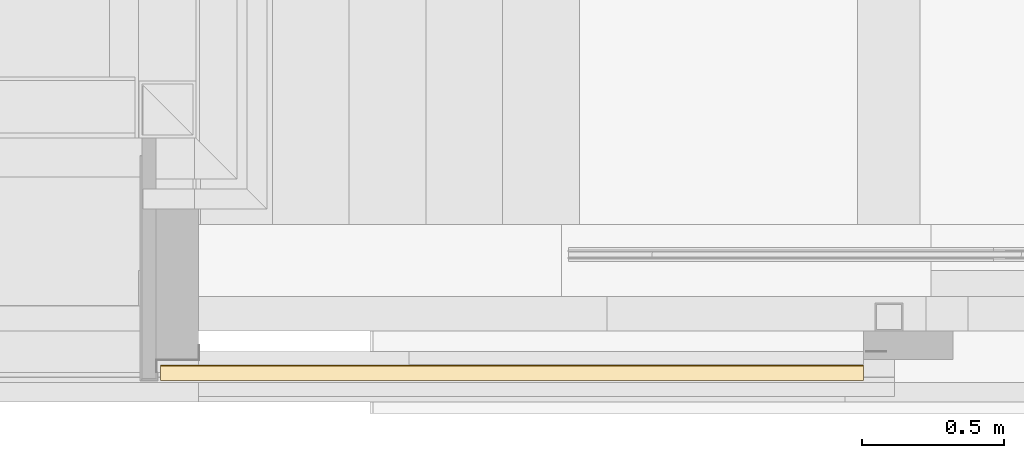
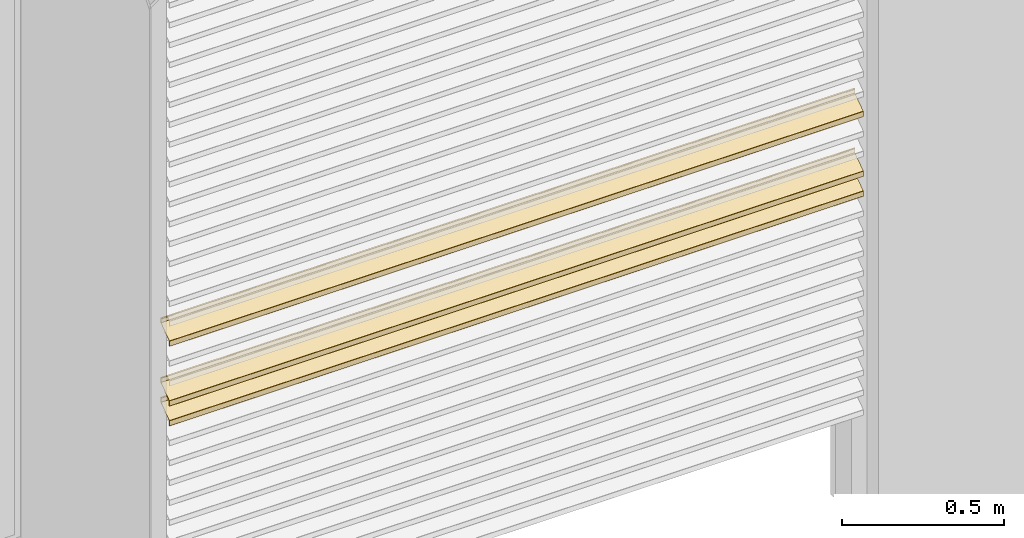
# One storey, part 106 of 165: 3 coverings, 1 element without a shape of its own.
"""IFC2X3 building model written with IfcOpenShell, lengths in millimetres."""

from ifc_helpers import new_model, entity, si_unit, converted_unit, derived_unit, money_unit, direction, frame, origin_with_axes, place, context, subcontext, project, spatial, faceted_brep, material, type_object, element, aggregate, save


model = new_model("IFC2X3")

# Units and contexts
model_context = context("Model", 3, precision=0.01, world=origin_with_axes(), true_north=direction((0.0, 1.0)))
body_context = subcontext(model_context, "Body", "Model", "MODEL_VIEW")
ifc_project = project(units=[si_unit("LENGTHUNIT", "METRE", prefix="MILLI"), si_unit("AREAUNIT", "SQUARE_METRE"), si_unit("VOLUMEUNIT", "CUBIC_METRE"), converted_unit("PLANEANGLEUNIT", "DEGREE", entity("IfcPlaneAngleMeasure", 0.0174532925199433), si_unit("PLANEANGLEUNIT", "RADIAN"), dimensions=[0, 0, 0, 0, 0, 0, 0]), money_unit("EUR"), converted_unit("TIMEUNIT", "Year", entity("IfcTimeMeasure", 31556926.0), si_unit("TIMEUNIT", "SECOND"), dimensions=[0, 0, 1, 0, 0, 0, 0]), si_unit("MASSUNIT", "GRAM", prefix="KILO"), si_unit("THERMODYNAMICTEMPERATUREUNIT", "DEGREE_CELSIUS"), si_unit("LUMINOUSINTENSITYUNIT", "LUMEN"), si_unit("ENERGYUNIT", "JOULE", prefix="MEGA"), derived_unit("THERMALCONDUCTANCEUNIT", [(si_unit("POWERUNIT", "WATT"), 1), (si_unit("LENGTHUNIT", "METRE"), -1), (si_unit("THERMODYNAMICTEMPERATUREUNIT", "KELVIN"), -1)]), derived_unit("SPECIFICHEATCAPACITYUNIT", [(si_unit("ENERGYUNIT", "JOULE"), 1), (si_unit("MASSUNIT", "GRAM", prefix="KILO"), -1), (si_unit("THERMODYNAMICTEMPERATUREUNIT", "KELVIN"), -1)]), derived_unit("MASSDENSITYUNIT", [(si_unit("MASSUNIT", "GRAM", prefix="KILO"), 1), (si_unit("VOLUMEUNIT", "CUBIC_METRE"), -1)])], contexts=[model_context])

# Site, building, storey
site_placement = place(None, origin_with_axes())
site = spatial("IfcSite", under=ifc_project, at=site_placement, Name="Site", CompositionType="ELEMENT")
building_placement = place(site_placement, origin_with_axes())
building = spatial("IfcBuilding", under=site, at=building_placement, Name="Naam gebouw", CompositionType="ELEMENT")
storey_placement = place(building_placement, origin_with_axes())
storey = spatial("IfcBuildingStorey", under=building, at=storey_placement, Name="Begane grond", CompositionType="ELEMENT", Elevation=0.0)

# Beam, coverings
beam_type = type_object("IfcBeamType", Name="30 Duco Louvre deur 55 x 2627", PredefinedType="BEAM")
beam_placement = place(storey_placement, frame((13900.0, -116.9904125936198, 0.0), z_axis=(0.0, 0.0, 1.0), x_axis=(0.0, 1.0, 0.0)))
beam = element("IfcBeam", 1, at=beam_placement, inside=storey, type_object=beam_type, Name="_Regenwaterafvoer-x", ObjectType="BEAM")
ifc_material = material(Name="Metaal - Aluminium")
covering_1_placement = place(beam_placement, origin_with_axes())
covering_1 = element("IfcCovering", 2, at=covering_1_placement, material=ifc_material, Name="Metaal - Aluminium", PredefinedType="NOTDEFINED", context=body_context, shape_type="Brep", body=[
    faceted_brep([(-4.027927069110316, 2473.999999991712, 983.6995018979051), (-56.57357643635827, 2473.999999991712, 946.906642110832), (-56.57357643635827, 0.0, 946.906642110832), (-4.027927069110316, 0.0, 983.6995018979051), (-3.90000000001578, 2473.999999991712, 983.9452475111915), (-3.90000000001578, 2473.999999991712, 999.1264285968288), (-3.975892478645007, 2473.999999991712, 999.3258673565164), (-4.165172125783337, 2473.999999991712, 999.4244001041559), (-4.372072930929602, 2473.999999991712, 999.3721742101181), (-5.427927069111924, 2473.999999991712, 998.6328571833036), (-5.634827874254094, 2473.999999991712, 998.5806312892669), (-5.824107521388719, 2473.999999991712, 998.6791640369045), (-5.900000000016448, 2473.999999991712, 998.8786027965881), (-5.900000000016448, 2473.999999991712, 1000.465609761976), (-5.77207293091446, 2473.999999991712, 1000.711355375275), (-2.944145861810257, 2473.999999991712, 1002.691491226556), (-2.530344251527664, 2473.999999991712, 1002.795943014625), (-2.151784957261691, 2473.999999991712, 1002.598877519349), (-2.000000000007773, 2473.999999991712, 1002.199999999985), (-2.000000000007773, 2473.999999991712, 983.3205670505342), (-2.426423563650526, 2473.999999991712, 982.501415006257), (-26.08018232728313, 2473.999999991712, 965.9388748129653), (-26.40000000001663, 2473.999999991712, 965.3245107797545), (-26.40000000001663, 2473.999999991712, 962.1278174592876), (-26.6196699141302, 2473.999999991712, 961.5974873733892), (-28.05857864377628, 2473.999999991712, 960.1585786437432), (-28.20000000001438, 2473.999999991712, 960.0999999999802), (-28.3414213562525, 2473.999999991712, 960.1585786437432), (-28.40000000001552, 2473.999999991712, 960.2999999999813), (-28.40000000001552, 2473.999999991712, 962.8737843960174), (-28.58973119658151, 2473.999999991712, 963.3723812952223), (-29.0629303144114, 2473.999999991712, 963.6187131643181), (-29.58018232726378, 2473.999999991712, 963.4881484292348), (-30.60000000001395, 2473.999999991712, 962.7740644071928), (-30.60000000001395, 2473.999999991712, 957.5999999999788), (-30.74644660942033, 2473.999999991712, 957.2464466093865), (-31.10000000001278, 2473.999999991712, 957.09999999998), (-32.10000000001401, 2473.999999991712, 957.09999999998), (-32.45355339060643, 2473.999999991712, 957.2464466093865), (-32.60000000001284, 2473.999999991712, 957.5999999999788), (-32.60000000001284, 2473.999999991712, 959.9329127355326), (-32.78973119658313, 2473.999999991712, 960.4315096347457), (-33.26293031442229, 2473.999999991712, 960.6778415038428), (-33.78018232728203, 2473.999999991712, 960.5472767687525), (-54.97207293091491, 2473.999999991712, 945.7085552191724), (-55.10000000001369, 2473.999999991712, 945.4628096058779), (-55.10000000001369, 2473.999999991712, 929.973571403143), (-55.0241075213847, 2473.999999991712, 929.7741326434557), (-54.83482787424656, 2473.999999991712, 929.6755998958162), (-54.62792706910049, 2473.999999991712, 929.7278257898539), (-53.57207293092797, 2473.999999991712, 930.4671428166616), (-53.36517212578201, 2473.999999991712, 930.5193687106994), (-53.17589247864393, 2473.999999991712, 930.4208359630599), (-53.1000000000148, 2473.999999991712, 930.2213972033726), (-53.1000000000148, 2473.999999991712, 928.6343902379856), (-53.22792706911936, 2473.999999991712, 928.3886446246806), (-56.05585413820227, 2473.999999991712, 926.4085087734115), (-56.46965574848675, 2473.999999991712, 926.304056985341), (-56.84821504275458, 2473.999999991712, 926.5011224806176), (-57.00000000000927, 2473.999999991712, 926.8999999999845), (-57.00000000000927, 2473.999999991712, 946.087490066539), (-57.00000000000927, 0.0, 946.087490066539), (-57.00000000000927, 0.0, 926.8999999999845), (-56.84821504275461, 0.0, 926.5011224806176), (-56.46965574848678, 0.0, 926.304056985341), (-56.0558541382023, 0.0, 926.4085087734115), (-53.22792706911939, 0.0, 928.3886446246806), (-53.1000000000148, 0.0, 928.6343902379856), (-53.1000000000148, 0.0, 930.2213972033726), (-53.17589247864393, 0.0, 930.4208359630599), (-53.36517212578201, 0.0, 930.5193687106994), (-53.57207293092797, 0.0, 930.4671428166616), (-54.62792706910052, 0.0, 929.7278257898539), (-54.83482787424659, 0.0, 929.6755998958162), (-55.02410752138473, 0.0, 929.7741326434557), (-55.10000000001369, 0.0, 929.973571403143), (-55.10000000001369, 0.0, 945.4628096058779), (-54.97207293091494, 0.0, 945.7085552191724), (-33.78018232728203, 0.0, 960.5472767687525), (-33.26293031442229, 0.0, 960.6778415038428), (-32.78973119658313, 0.0, 960.4315096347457), (-32.60000000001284, 0.0, 959.9329127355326), (-32.60000000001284, 0.0, 957.5999999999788), (-32.45355339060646, 0.0, 957.2464466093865), (-32.10000000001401, 0.0, 957.09999999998), (-31.10000000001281, 0.0, 957.09999999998), (-30.74644660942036, 0.0, 957.2464466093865), (-30.60000000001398, 0.0, 957.5999999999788), (-30.60000000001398, 0.0, 962.7740644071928), (-29.58018232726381, 0.0, 963.4881484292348), (-29.06293031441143, 0.0, 963.6187131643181), (-28.58973119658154, 0.0, 963.3723812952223), (-28.40000000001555, 0.0, 962.8737843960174), (-28.40000000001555, 0.0, 960.2999999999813), (-28.3414213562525, 0.0, 960.1585786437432), (-28.20000000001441, 0.0, 960.0999999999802), (-28.05857864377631, 0.0, 960.1585786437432), (-26.6196699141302, 0.0, 961.5974873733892), (-26.40000000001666, 0.0, 962.1278174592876), (-26.40000000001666, 0.0, 965.3245107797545), (-26.08018232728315, 0.0, 965.9388748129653), (-2.426423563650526, 0.0, 982.501415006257), (-2.000000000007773, 0.0, 983.3205670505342), (-2.000000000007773, 0.0, 1002.199999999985), (-2.151784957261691, 0.0, 1002.598877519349), (-2.530344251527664, 0.0, 1002.795943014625), (-2.944145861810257, 0.0, 1002.691491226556), (-5.77207293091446, 0.0, 1000.711355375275), (-5.900000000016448, 0.0, 1000.465609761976), (-5.900000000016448, 0.0, 998.8786027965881), (-5.824107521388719, 0.0, 998.6791640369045), (-5.634827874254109, 0.0, 998.5806312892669), (-5.427927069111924, 0.0, 998.6328571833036), (-4.372072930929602, 0.0, 999.3721742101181), (-4.165172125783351, 0.0, 999.4244001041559), (-3.975892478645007, 0.0, 999.3258673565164), (-3.90000000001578, 0.0, 999.1264285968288), (-3.90000000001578, 0.0, 983.9452475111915)], [[[0, 1, 2, 3]], [[0, 4, 5, 6, 7, 8, 9, 10, 11, 12, 13, 14, 15, 16, 17, 18, 19, 20, 21, 22, 23, 24, 25, 26, 27, 28, 29, 30, 31, 32, 33, 34, 35, 36, 37, 38, 39, 40, 41, 42, 43, 44, 45, 46, 47, 48, 49, 50, 51, 52, 53, 54, 55, 56, 57, 58, 59, 60, 1]], [[1, 60, 61, 2]], [[3, 2, 61, 62, 63, 64, 65, 66, 67, 68, 69, 70, 71, 72, 73, 74, 75, 76, 77, 78, 79, 80, 81, 82, 83, 84, 85, 86, 87, 88, 89, 90, 91, 92, 93, 94, 95, 96, 97, 98, 99, 100, 101, 102, 103, 104, 105, 106, 107, 108, 109, 110, 111, 112, 113, 114, 115, 116, 117]], [[4, 0, 3, 117]], [[5, 4, 117, 116]], [[6, 5, 116, 115]], [[7, 6, 115, 114]], [[8, 7, 114, 113]], [[9, 8, 113, 112]], [[10, 9, 112, 111]], [[11, 10, 111, 110]], [[12, 11, 110, 109]], [[13, 12, 109, 108]], [[14, 13, 108, 107]], [[15, 14, 107, 106]], [[16, 15, 106, 105]], [[17, 16, 105, 104]], [[18, 17, 104, 103]], [[19, 18, 103, 102]], [[20, 19, 102, 101]], [[21, 20, 101, 100]], [[22, 21, 100, 99]], [[23, 22, 99, 98]], [[24, 23, 98, 97]], [[25, 24, 97, 96]], [[26, 25, 96, 95]], [[27, 26, 95, 94]], [[28, 27, 94, 93]], [[29, 28, 93, 92]], [[30, 29, 92, 91]], [[31, 30, 91, 90]], [[32, 31, 90, 89]], [[33, 32, 89, 88]], [[34, 33, 88, 87]], [[35, 34, 87, 86]], [[36, 35, 86, 85]], [[37, 36, 85, 84]], [[38, 37, 84, 83]], [[39, 38, 83, 82]], [[40, 39, 82, 81]], [[41, 40, 81, 80]], [[42, 41, 80, 79]], [[43, 42, 79, 78]], [[44, 43, 78, 77]], [[45, 44, 77, 76]], [[46, 45, 76, 75]], [[47, 46, 75, 74]], [[48, 47, 74, 73]], [[49, 48, 73, 72]], [[50, 49, 72, 71]], [[51, 50, 71, 70]], [[52, 51, 70, 69]], [[53, 52, 69, 68]], [[54, 53, 68, 67]], [[55, 54, 67, 66]], [[56, 55, 66, 65]], [[57, 56, 65, 64]], [[58, 57, 64, 63]], [[59, 58, 63, 62]], [[60, 59, 62, 61]]]),
])
covering_2_placement = place(beam_placement, origin_with_axes())
covering_2 = element("IfcCovering", 3, at=covering_2_placement, material=ifc_material, Name="Metaal - Aluminium", PredefinedType="NOTDEFINED", context=body_context, shape_type="Brep", body=[
    faceted_brep([(-4.027927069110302, 2473.999999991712, 1208.699501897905), (-56.57357643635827, 2473.999999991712, 1171.906642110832), (-56.57357643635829, 0.0, 1171.906642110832), (-4.027927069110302, 0.0, 1208.699501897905), (-3.90000000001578, 2473.999999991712, 1208.945247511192), (-3.90000000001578, 2473.999999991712, 1224.126428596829), (-3.975892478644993, 2473.999999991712, 1224.325867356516), (-4.165172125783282, 2473.999999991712, 1224.424400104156), (-4.372072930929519, 2473.999999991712, 1224.372174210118), (-5.427927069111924, 2473.999999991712, 1223.632857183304), (-5.634827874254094, 2473.999999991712, 1223.580631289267), (-5.824107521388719, 2473.999999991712, 1223.679164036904), (-5.900000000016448, 2473.999999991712, 1223.878602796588), (-5.900000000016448, 2473.999999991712, 1225.465609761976), (-5.77207293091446, 2473.999999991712, 1225.711355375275), (-2.944145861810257, 2473.999999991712, 1227.691491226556), (-2.530344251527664, 2473.999999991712, 1227.795943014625), (-2.151784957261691, 2473.999999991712, 1227.59887751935), (-2.000000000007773, 2473.999999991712, 1227.199999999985), (-2.000000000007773, 2473.999999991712, 1208.320567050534), (-2.426423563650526, 2473.999999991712, 1207.501415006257), (-26.08018232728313, 2473.999999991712, 1190.938874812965), (-26.40000000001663, 2473.999999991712, 1190.324510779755), (-26.40000000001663, 2473.999999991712, 1187.127817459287), (-26.61966991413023, 2473.999999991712, 1186.597487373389), (-28.05857864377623, 2473.999999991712, 1185.158578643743), (-28.20000000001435, 2473.999999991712, 1185.09999999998), (-28.34142135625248, 2473.999999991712, 1185.158578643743), (-28.40000000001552, 2473.999999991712, 1185.299999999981), (-28.40000000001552, 2473.999999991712, 1187.873784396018), (-28.58973119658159, 2473.999999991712, 1188.372381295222), (-29.06293031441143, 2473.999999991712, 1188.618713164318), (-29.58018232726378, 2473.999999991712, 1188.488148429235), (-30.60000000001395, 2473.999999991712, 1187.774064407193), (-30.60000000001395, 2473.999999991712, 1182.599999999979), (-30.74644660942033, 2473.999999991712, 1182.246446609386), (-31.10000000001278, 2473.999999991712, 1182.09999999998), (-32.10000000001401, 2473.999999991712, 1182.09999999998), (-32.45355339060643, 2473.999999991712, 1182.246446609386), (-32.60000000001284, 2473.999999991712, 1182.599999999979), (-32.60000000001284, 2473.999999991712, 1184.932912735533), (-32.78973119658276, 2473.999999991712, 1185.431509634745), (-33.26293031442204, 2473.999999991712, 1185.677841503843), (-33.780182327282, 2473.999999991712, 1185.547276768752), (-54.97207293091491, 2473.999999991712, 1170.708555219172), (-55.10000000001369, 2473.999999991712, 1170.462809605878), (-55.10000000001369, 2473.999999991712, 1154.973571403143), (-55.02410752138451, 2473.999999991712, 1154.774132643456), (-54.8348278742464, 2473.999999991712, 1154.675599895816), (-54.62792706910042, 2473.999999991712, 1154.727825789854), (-53.57207293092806, 2473.999999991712, 1155.467142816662), (-53.36517212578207, 2473.999999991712, 1155.519368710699), (-53.17589247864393, 2473.999999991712, 1155.42083596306), (-53.1000000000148, 2473.999999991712, 1155.221397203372), (-53.1000000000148, 2473.999999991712, 1153.634390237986), (-53.22792706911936, 2473.999999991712, 1153.388644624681), (-56.05585413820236, 2473.999999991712, 1151.408508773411), (-56.46965574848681, 2473.999999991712, 1151.304056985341), (-56.84821504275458, 2473.999999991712, 1151.501122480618), (-57.00000000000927, 2473.999999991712, 1151.899999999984), (-57.00000000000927, 2473.999999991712, 1171.087490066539), (-57.00000000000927, 0.0, 1171.087490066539), (-57.00000000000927, 0.0, 1151.899999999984), (-56.84821504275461, 0.0, 1151.501122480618), (-56.46965574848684, 0.0, 1151.304056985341), (-56.05585413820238, 0.0, 1151.408508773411), (-53.22792706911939, 0.0, 1153.388644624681), (-53.1000000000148, 0.0, 1153.634390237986), (-53.1000000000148, 0.0, 1155.221397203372), (-53.17589247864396, 0.0, 1155.42083596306), (-53.36517212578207, 0.0, 1155.519368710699), (-53.57207293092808, 0.0, 1155.467142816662), (-54.62792706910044, 0.0, 1154.727825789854), (-54.83482787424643, 0.0, 1154.675599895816), (-55.02410752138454, 0.0, 1154.774132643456), (-55.10000000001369, 0.0, 1154.973571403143), (-55.10000000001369, 0.0, 1170.462809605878), (-54.97207293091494, 0.0, 1170.708555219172), (-33.78018232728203, 0.0, 1185.547276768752), (-33.26293031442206, 0.0, 1185.677841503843), (-32.78973119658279, 0.0, 1185.431509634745), (-32.60000000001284, 0.0, 1184.932912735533), (-32.60000000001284, 0.0, 1182.599999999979), (-32.45355339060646, 0.0, 1182.246446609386), (-32.10000000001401, 0.0, 1182.09999999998), (-31.10000000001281, 0.0, 1182.09999999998), (-30.74644660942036, 0.0, 1182.246446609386), (-30.60000000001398, 0.0, 1182.599999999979), (-30.60000000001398, 0.0, 1187.774064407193), (-29.58018232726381, 0.0, 1188.488148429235), (-29.06293031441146, 0.0, 1188.618713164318), (-28.58973119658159, 0.0, 1188.372381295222), (-28.40000000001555, 0.0, 1187.873784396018), (-28.40000000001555, 0.0, 1185.299999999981), (-28.3414213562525, 0.0, 1185.158578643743), (-28.20000000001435, 0.0, 1185.09999999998), (-28.05857864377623, 0.0, 1185.158578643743), (-26.61966991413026, 0.0, 1186.597487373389), (-26.40000000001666, 0.0, 1187.127817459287), (-26.40000000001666, 0.0, 1190.324510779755), (-26.08018232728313, 0.0, 1190.938874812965), (-2.42642356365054, 0.0, 1207.501415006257), (-2.000000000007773, 0.0, 1208.320567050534), (-2.000000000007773, 0.0, 1227.199999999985), (-2.151784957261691, 0.0, 1227.59887751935), (-2.530344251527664, 0.0, 1227.795943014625), (-2.944145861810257, 0.0, 1227.691491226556), (-5.77207293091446, 0.0, 1225.711355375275), (-5.900000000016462, 0.0, 1225.465609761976), (-5.900000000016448, 0.0, 1223.878602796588), (-5.824107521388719, 0.0, 1223.679164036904), (-5.634827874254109, 0.0, 1223.580631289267), (-5.427927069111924, 0.0, 1223.632857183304), (-4.372072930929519, 0.0, 1224.372174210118), (-4.165172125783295, 0.0, 1224.424400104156), (-3.975892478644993, 0.0, 1224.325867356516), (-3.90000000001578, 0.0, 1224.126428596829), (-3.90000000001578, 0.0, 1208.945247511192)], [[[0, 1, 2, 3]], [[0, 4, 5, 6, 7, 8, 9, 10, 11, 12, 13, 14, 15, 16, 17, 18, 19, 20, 21, 22, 23, 24, 25, 26, 27, 28, 29, 30, 31, 32, 33, 34, 35, 36, 37, 38, 39, 40, 41, 42, 43, 44, 45, 46, 47, 48, 49, 50, 51, 52, 53, 54, 55, 56, 57, 58, 59, 60, 1]], [[1, 60, 61, 2]], [[3, 2, 61, 62, 63, 64, 65, 66, 67, 68, 69, 70, 71, 72, 73, 74, 75, 76, 77, 78, 79, 80, 81, 82, 83, 84, 85, 86, 87, 88, 89, 90, 91, 92, 93, 94, 95, 96, 97, 98, 99, 100, 101, 102, 103, 104, 105, 106, 107, 108, 109, 110, 111, 112, 113, 114, 115, 116, 117]], [[4, 0, 3, 117]], [[5, 4, 117, 116]], [[6, 5, 116, 115]], [[7, 6, 115, 114]], [[8, 7, 114, 113]], [[9, 8, 113, 112]], [[10, 9, 112, 111]], [[11, 10, 111, 110]], [[12, 11, 110, 109]], [[13, 12, 109, 108]], [[14, 13, 108, 107]], [[15, 14, 107, 106]], [[16, 15, 106, 105]], [[17, 16, 105, 104]], [[18, 17, 104, 103]], [[19, 18, 103, 102]], [[20, 19, 102, 101]], [[21, 20, 101, 100]], [[22, 21, 100, 99]], [[23, 22, 99, 98]], [[24, 23, 98, 97]], [[25, 24, 97, 96]], [[26, 25, 96, 95]], [[27, 26, 95, 94]], [[28, 27, 94, 93]], [[29, 28, 93, 92]], [[30, 29, 92, 91]], [[31, 30, 91, 90]], [[32, 31, 90, 89]], [[33, 32, 89, 88]], [[34, 33, 88, 87]], [[35, 34, 87, 86]], [[36, 35, 86, 85]], [[37, 36, 85, 84]], [[38, 37, 84, 83]], [[39, 38, 83, 82]], [[40, 39, 82, 81]], [[41, 40, 81, 80]], [[42, 41, 80, 79]], [[43, 42, 79, 78]], [[44, 43, 78, 77]], [[45, 44, 77, 76]], [[46, 45, 76, 75]], [[47, 46, 75, 74]], [[48, 47, 74, 73]], [[49, 48, 73, 72]], [[50, 49, 72, 71]], [[51, 50, 71, 70]], [[52, 51, 70, 69]], [[53, 52, 69, 68]], [[54, 53, 68, 67]], [[55, 54, 67, 66]], [[56, 55, 66, 65]], [[57, 56, 65, 64]], [[58, 57, 64, 63]], [[59, 58, 63, 62]], [[60, 59, 62, 61]]]),
])
covering_3_placement = place(beam_placement, origin_with_axes())
covering_3 = element("IfcCovering", 4, at=covering_3_placement, material=ifc_material, Name="Metaal - Aluminium", PredefinedType="NOTDEFINED", context=body_context, shape_type="Brep", body=[
    faceted_brep([(-4.027927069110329, 2473.999999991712, 908.6995018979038), (-56.57357643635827, 2473.999999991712, 871.9066421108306), (-56.57357643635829, 0.0, 871.9066421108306), (-4.027927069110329, 0.0, 908.6995018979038), (-3.900000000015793, 2473.999999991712, 908.9452475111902), (-3.900000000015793, 2473.999999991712, 924.1264285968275), (-3.975892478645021, 2473.999999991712, 924.3258673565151), (-4.165172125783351, 2473.999999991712, 924.4244001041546), (-4.372072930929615, 2473.999999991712, 924.3721742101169), (-5.427927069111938, 2473.999999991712, 923.6328571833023), (-5.634827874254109, 2473.999999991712, 923.5806312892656), (-5.824107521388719, 2473.999999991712, 923.6791640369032), (-5.900000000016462, 2473.999999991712, 923.8786027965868), (-5.900000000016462, 2473.999999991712, 925.4656097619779), (-5.772072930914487, 2473.999999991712, 925.7113553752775), (-2.944145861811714, 2473.999999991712, 927.691491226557), (-2.530344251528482, 2473.999999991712, 927.795943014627), (-2.15178495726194, 2473.999999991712, 927.5988775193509), (-2.000000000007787, 2473.999999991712, 927.1999999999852), (-2.000000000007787, 2473.999999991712, 908.3205670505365), (-2.42642356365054, 2473.999999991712, 907.5014150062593), (-26.08018232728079, 2473.999999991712, 890.938874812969), (-26.40000000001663, 2473.999999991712, 890.3245107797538), (-26.40000000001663, 2473.999999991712, 887.1278174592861), (-26.61966991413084, 2473.999999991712, 886.5974873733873), (-28.0585786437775, 2473.999999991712, 885.1585786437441), (-28.20000000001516, 2473.999999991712, 885.0999999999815), (-28.34142135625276, 2473.999999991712, 885.1585786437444), (-28.40000000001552, 2473.999999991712, 885.299999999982), (-28.40000000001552, 2473.999999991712, 887.8737843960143), (-28.5897311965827, 2473.999999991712, 888.3723812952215), (-29.06293031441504, 2473.999999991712, 888.6187131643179), (-29.58018232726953, 2473.999999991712, 888.488148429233), (-30.60000000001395, 2473.999999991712, 887.7740644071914), (-30.60000000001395, 2473.999999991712, 882.5999999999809), (-30.74644660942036, 2473.999999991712, 882.2464466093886), (-31.10000000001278, 2473.999999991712, 882.0999999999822), (-32.10000000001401, 2473.999999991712, 882.0999999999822), (-32.45355339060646, 2473.999999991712, 882.2464466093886), (-32.60000000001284, 2473.999999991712, 882.5999999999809), (-32.60000000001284, 2473.999999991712, 884.9329127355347), (-32.78973119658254, 2473.999999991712, 885.4315096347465), (-33.26293031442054, 2473.999999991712, 885.6778415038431), (-33.78018232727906, 2473.999999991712, 885.5472767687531), (-54.9720729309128, 2473.999999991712, 870.708555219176), (-55.10000000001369, 2473.999999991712, 870.4628096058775), (-55.10000000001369, 2473.999999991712, 854.9735714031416), (-55.02410752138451, 2473.999999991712, 854.7741326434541), (-54.83482787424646, 2473.999999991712, 854.6755998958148), (-54.62792706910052, 2473.999999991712, 854.7278257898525), (-53.57207293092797, 2473.999999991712, 855.4671428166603), (-53.36517212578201, 2473.999999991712, 855.5193687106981), (-53.17589247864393, 2473.999999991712, 855.4208359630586), (-53.1000000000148, 2473.999999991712, 855.2213972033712), (-53.1000000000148, 2473.999999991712, 853.6343902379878), (-53.22792706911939, 2473.999999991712, 853.3886446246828), (-56.05585413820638, 2473.999999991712, 851.4085087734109), (-56.46965574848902, 2473.999999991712, 851.3040569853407), (-56.84821504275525, 2473.999999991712, 851.5011224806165), (-57.00000000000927, 2473.999999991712, 851.8999999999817), (-57.00000000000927, 2473.999999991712, 871.0874900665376), (-57.00000000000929, 0.0, 871.0874900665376), (-57.00000000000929, 0.0, 851.8999999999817), (-56.84821504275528, 0.0, 851.5011224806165), (-56.46965574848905, 0.0, 851.3040569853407), (-56.05585413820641, 0.0, 851.4085087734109), (-53.22792706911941, 0.0, 853.3886446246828), (-53.10000000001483, 0.0, 853.6343902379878), (-53.10000000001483, 0.0, 855.2213972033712), (-53.17589247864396, 0.0, 855.4208359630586), (-53.36517212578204, 0.0, 855.5193687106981), (-53.572072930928, 0.0, 855.4671428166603), (-54.62792706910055, 0.0, 854.7278257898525), (-54.83482787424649, 0.0, 854.6755998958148), (-55.02410752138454, 0.0, 854.7741326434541), (-55.10000000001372, 0.0, 854.9735714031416), (-55.10000000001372, 0.0, 870.4628096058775), (-54.97207293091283, 0.0, 870.708555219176), (-33.78018232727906, 0.0, 885.5472767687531), (-33.26293031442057, 0.0, 885.6778415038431), (-32.78973119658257, 0.0, 885.4315096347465), (-32.60000000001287, 0.0, 884.9329127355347), (-32.60000000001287, 0.0, 882.5999999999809), (-32.45355339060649, 0.0, 882.2464466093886), (-32.10000000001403, 0.0, 882.0999999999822), (-31.10000000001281, 0.0, 882.0999999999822), (-30.74644660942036, 0.0, 882.2464466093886), (-30.60000000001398, 0.0, 882.5999999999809), (-30.60000000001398, 0.0, 887.7740644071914), (-29.58018232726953, 0.0, 888.488148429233), (-29.06293031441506, 0.0, 888.6187131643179), (-28.5897311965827, 0.0, 888.3723812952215), (-28.40000000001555, 0.0, 887.8737843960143), (-28.40000000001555, 0.0, 885.299999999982), (-28.34142135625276, 0.0, 885.1585786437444), (-28.20000000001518, 0.0, 885.0999999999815), (-28.0585786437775, 0.0, 885.1585786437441), (-26.61966991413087, 0.0, 886.5974873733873), (-26.40000000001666, 0.0, 887.1278174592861), (-26.40000000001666, 0.0, 890.3245107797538), (-26.08018232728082, 0.0, 890.938874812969), (-2.42642356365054, 0.0, 907.5014150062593), (-2.000000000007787, 0.0, 908.3205670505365), (-2.000000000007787, 0.0, 927.1999999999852), (-2.15178495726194, 0.0, 927.5988775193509), (-2.530344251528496, 0.0, 927.795943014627), (-2.944145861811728, 0.0, 927.691491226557), (-5.772072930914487, 0.0, 925.7113553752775), (-5.900000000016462, 0.0, 925.4656097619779), (-5.900000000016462, 0.0, 923.8786027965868), (-5.824107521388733, 0.0, 923.6791640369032), (-5.634827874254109, 0.0, 923.5806312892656), (-5.427927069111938, 0.0, 923.6328571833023), (-4.372072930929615, 0.0, 924.3721742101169), (-4.165172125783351, 0.0, 924.4244001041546), (-3.975892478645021, 0.0, 924.3258673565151), (-3.900000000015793, 0.0, 924.1264285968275), (-3.900000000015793, 0.0, 908.9452475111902)], [[[0, 1, 2, 3]], [[0, 4, 5, 6, 7, 8, 9, 10, 11, 12, 13, 14, 15, 16, 17, 18, 19, 20, 21, 22, 23, 24, 25, 26, 27, 28, 29, 30, 31, 32, 33, 34, 35, 36, 37, 38, 39, 40, 41, 42, 43, 44, 45, 46, 47, 48, 49, 50, 51, 52, 53, 54, 55, 56, 57, 58, 59, 60, 1]], [[1, 60, 61, 2]], [[3, 2, 61, 62, 63, 64, 65, 66, 67, 68, 69, 70, 71, 72, 73, 74, 75, 76, 77, 78, 79, 80, 81, 82, 83, 84, 85, 86, 87, 88, 89, 90, 91, 92, 93, 94, 95, 96, 97, 98, 99, 100, 101, 102, 103, 104, 105, 106, 107, 108, 109, 110, 111, 112, 113, 114, 115, 116, 117]], [[4, 0, 3, 117]], [[5, 4, 117, 116]], [[6, 5, 116, 115]], [[7, 6, 115, 114]], [[8, 7, 114, 113]], [[9, 8, 113, 112]], [[10, 9, 112, 111]], [[11, 10, 111, 110]], [[12, 11, 110, 109]], [[13, 12, 109, 108]], [[14, 13, 108, 107]], [[15, 14, 107, 106]], [[16, 15, 106, 105]], [[17, 16, 105, 104]], [[18, 17, 104, 103]], [[19, 18, 103, 102]], [[20, 19, 102, 101]], [[21, 20, 101, 100]], [[22, 21, 100, 99]], [[23, 22, 99, 98]], [[24, 23, 98, 97]], [[25, 24, 97, 96]], [[26, 25, 96, 95]], [[27, 26, 95, 94]], [[28, 27, 94, 93]], [[29, 28, 93, 92]], [[30, 29, 92, 91]], [[31, 30, 91, 90]], [[32, 31, 90, 89]], [[33, 32, 89, 88]], [[34, 33, 88, 87]], [[35, 34, 87, 86]], [[36, 35, 86, 85]], [[37, 36, 85, 84]], [[38, 37, 84, 83]], [[39, 38, 83, 82]], [[40, 39, 82, 81]], [[41, 40, 81, 80]], [[42, 41, 80, 79]], [[43, 42, 79, 78]], [[44, 43, 78, 77]], [[45, 44, 77, 76]], [[46, 45, 76, 75]], [[47, 46, 75, 74]], [[48, 47, 74, 73]], [[49, 48, 73, 72]], [[50, 49, 72, 71]], [[51, 50, 71, 70]], [[52, 51, 70, 69]], [[53, 52, 69, 68]], [[54, 53, 68, 67]], [[55, 54, 67, 66]], [[56, 55, 66, 65]], [[57, 56, 65, 64]], [[58, 57, 64, 63]], [[59, 58, 63, 62]], [[60, 59, 62, 61]]]),
])
aggregate(beam, [covering_1, covering_2, covering_3])

save(model, "model.ifc")
